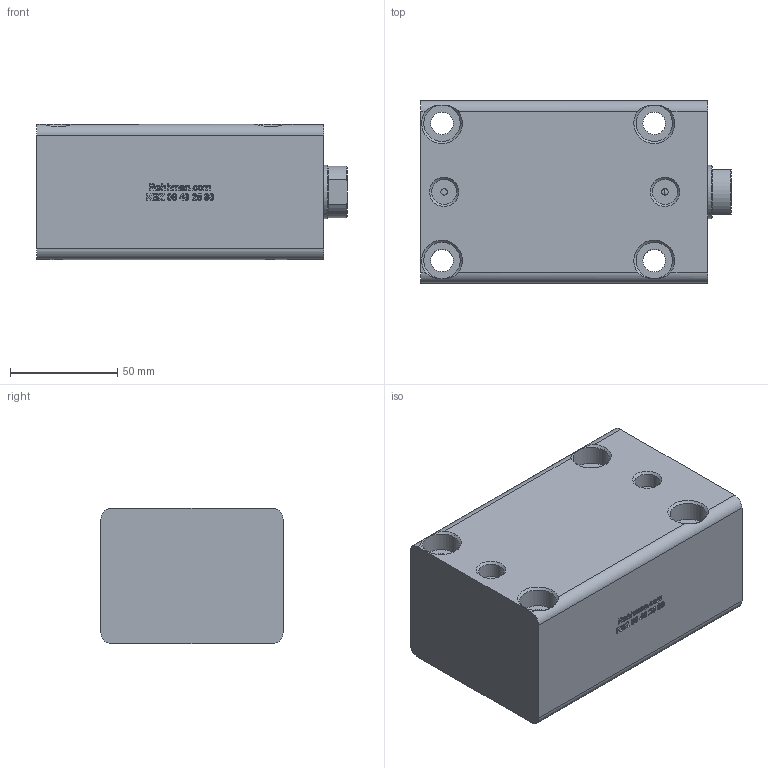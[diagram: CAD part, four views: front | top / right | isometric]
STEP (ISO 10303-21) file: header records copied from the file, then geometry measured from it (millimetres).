
FILE_DESCRIPTION(/* description */ (''),/* implementation_level */ '2;1');
FILE_NAME(/* name */ 'KBZ_08_40_25_80_WEB.step',/* time_stamp */ '2023-09-04T09:42:17+03:00',/* author */ (''),/* organization */ (''),/* preprocessor_version */ 'ST-DEVELOPER v20',/* originating_system */ 'Autodesk Translation Framework v12.9.0.99',/* authorisation */ '');
FILE_SCHEMA (('AUTOMOTIVE_DESIGN { 1 0 10303 214 3 1 1 }'));
Length unit declared in the file: millimetre
Products named in the file (6): KBZ_08_40_25_100_MONTAJ; KAPAK; KAPAK_1; GÖVDE; GÖVDE_1; Ø25 MİL
Assembly tree (5 placements, depth 3):
  KBZ_08_40_25_100_MONTAJ
    KAPAK
      KAPAK_1
    GÖVDE
      GÖVDE_1
    Ø25 MİL
Bounding box: 145 x 85 x 63 mm (x, y, z)
Volume: 642996.1 mm3; surface area: 80772 mm2
Topology: 3 solids, 3 shells, 585 faces, 1593 edges, 1054 vertices
Faces by surface type: bspline 347, plane 188, cylinder 28, cone 22
Full cylindrical faces by diameter (mm): 3 x4, 10.5 x4, 11.668 x2, 12.023 x1, 17 x4, 25 x1, 25.5 x1, 40 x1, 45 x2, 55 x2
Entity records: 21924 total; most frequent: CARTESIAN_POINT 9310, ORIENTED_EDGE 3186, EDGE_CURVE 1593, DIRECTION 1469, VERTEX_POINT 1054, LINE 791, VECTOR 791, B_SPLINE_CURVE_WITH_KNOTS 709
